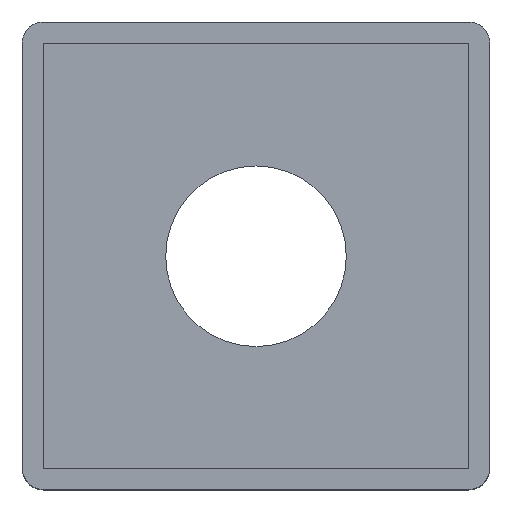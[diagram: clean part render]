
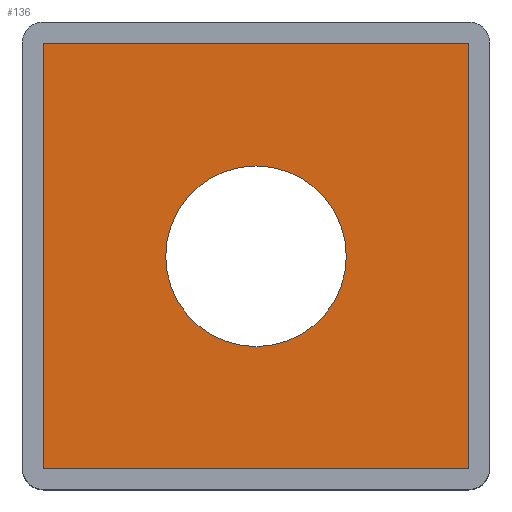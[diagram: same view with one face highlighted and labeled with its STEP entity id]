
A CAD part, top view. The second image highlights one B-rep face of the part: STEP entity #136.
In plain terms, the highlighted planar face has unit normal (0, 0, 1).
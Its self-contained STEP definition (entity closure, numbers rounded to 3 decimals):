
#136=ADVANCED_FACE('',(#252,#253),#254,.T.);
#252=FACE_BOUND('',#358,.T.);
#253=FACE_OUTER_BOUND('',#359,.T.);
#254=PLANE('',#360);
#358=EDGE_LOOP('',(#529));
#359=EDGE_LOOP('',(#530,#531,#532,#533));
#360=AXIS2_PLACEMENT_3D('',#534,#535,#536);
#529=ORIENTED_EDGE('',*,*,#678,.F.);
#530=ORIENTED_EDGE('',*,*,#672,.T.);
#531=ORIENTED_EDGE('',*,*,#682,.T.);
#532=ORIENTED_EDGE('',*,*,#665,.T.);
#533=ORIENTED_EDGE('',*,*,#642,.T.);
#534=CARTESIAN_POINT('',(-19.0,-24.556,2.0));
#535=DIRECTION('',(0.0,0.0,1.0));
#536=DIRECTION('',(1.0,0.0,0.0));
#642=EDGE_CURVE('',#744,#745,#746,.T.);
#665=EDGE_CURVE('',#776,#744,#777,.T.);
#672=EDGE_CURVE('',#745,#785,#786,.T.);
#678=EDGE_CURVE('',#792,#792,#793,.T.);
#682=EDGE_CURVE('',#785,#776,#798,.T.);
#744=VERTEX_POINT('',#870);
#745=VERTEX_POINT('',#871);
#746=LINE('',#872,#873);
#776=VERTEX_POINT('',#911);
#777=LINE('',#912,#913);
#785=VERTEX_POINT('',#924);
#786=LINE('',#925,#926);
#792=VERTEX_POINT('',#935);
#793=CIRCLE('',#936,8.5);
#798=LINE('',#941,#942);
#870=CARTESIAN_POINT('',(23.0,17.444,2.0));
#871=CARTESIAN_POINT('',(-17.0,17.444,2.0));
#872=CARTESIAN_POINT('',(25.0,17.444,2.0));
#873=VECTOR('',#1005,1.0);
#911=CARTESIAN_POINT('',(23.0,-22.556,2.0));
#912=CARTESIAN_POINT('',(23.0,-24.556,2.0));
#913=VECTOR('',#1035,1.0);
#924=CARTESIAN_POINT('',(-17.0,-22.556,2.0));
#925=CARTESIAN_POINT('',(-17.0,19.444,2.0));
#926=VECTOR('',#1042,1.0);
#935=CARTESIAN_POINT('',(11.5,-2.556,2.));
#936=AXIS2_PLACEMENT_3D('',#1046,#1047,#1048);
#941=CARTESIAN_POINT('',(-19.0,-22.556,2.0));
#942=VECTOR('',#1052,1.0);
#1005=DIRECTION('',(-1.0,0.0,0.0));
#1035=DIRECTION('',(0.0,1.0,0.0));
#1042=DIRECTION('',(0.0,-1.0,0.0));
#1046=CARTESIAN_POINT('',(3.0,-2.556,2.));
#1047=DIRECTION('',(0.0,0.0,1.0));
#1048=DIRECTION('',(1.0,0.0,0.0));
#1052=DIRECTION('',(1.0,0.0,0.0));
